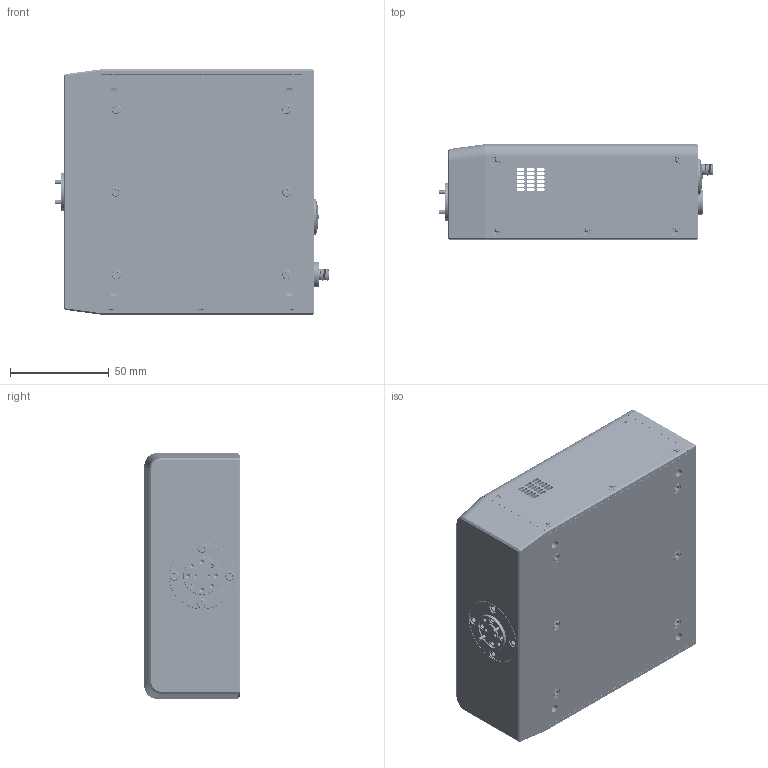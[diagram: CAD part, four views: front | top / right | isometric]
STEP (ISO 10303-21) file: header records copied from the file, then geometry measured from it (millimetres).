
FILE_DESCRIPTION (( 'STEP AP214' ), '1' );
FILE_NAME ('TC-V-A-IDP, Defeatured, Mountable.STEP', '2025-02-11T21:07:23', ( '' ), ( '' ), 'SwSTEP 2.0', 'SolidWorks 2021', '' );
FILE_SCHEMA (( 'AUTOMOTIVE_DESIGN' ));
Length unit declared in the file: inch
Products named in the file (1): TC-V-A-IDP, Defeatured, Mountable
Bounding box: 139.21 x 48.26 x 124.32 mm (x, y, z)
Volume: 287558.4 mm3; surface area: 141985.8 mm2
Topology: 41 solids, 41 shells, 3231 faces, 8703 edges, 5558 vertices
Faces by surface type: cylinder 1703, plane 948, cone 480, bspline 69, torus 28, sphere 3
Entity records: 176418 total; most frequent: CARTESIAN_POINT 59268, ORIENTED_EDGE 17134, DIRECTION 14136, EDGE_CURVE 8567, VERTEX_POINT 5557, AXIS2_PLACEMENT_3D 5171, VECTOR 3794, LINE 3794
